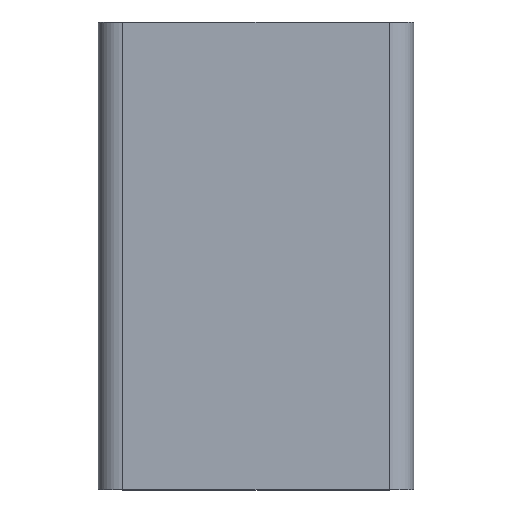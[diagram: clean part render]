
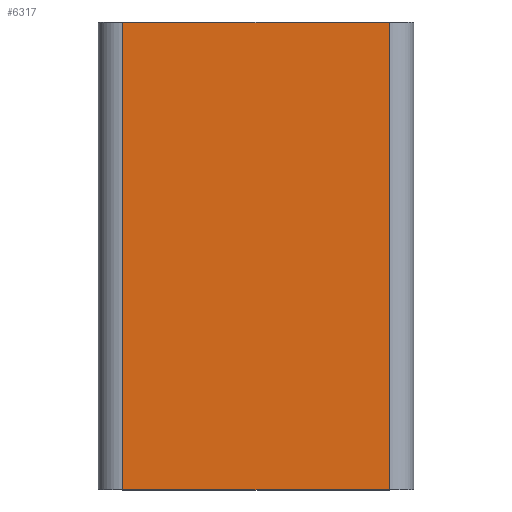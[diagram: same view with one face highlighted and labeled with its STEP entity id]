
A CAD part, top view. The second image highlights one B-rep face of the part: STEP entity #6317.
In plain terms, the highlighted planar face has unit normal (0, 0, 1).
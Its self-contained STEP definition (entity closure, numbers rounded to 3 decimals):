
#1974 = VECTOR ( 'NONE', #1979, 1000. ) ;
#1975 = CARTESIAN_POINT ( 'NONE',  ( -245., 860., 215. ) ) ;
#1979 = DIRECTION ( 'NONE',  ( 0., -1., 0. ) ) ;
#1993 = LINE ( 'NONE', #1975, #1974 ) ;
#3155 = DIRECTION ( 'NONE',  ( -1., 0., 0. ) ) ;
#3156 = VECTOR ( 'NONE', #3155, 1000. ) ;
#3157 = LINE ( 'NONE', #3162, #3156 ) ;
#3158 = AXIS2_PLACEMENT_3D ( 'NONE', #3210, #3209, #3208 ) ;
#3162 = CARTESIAN_POINT ( 'NONE',  ( -245., 859., 215. ) ) ;
#3163 = FACE_OUTER_BOUND ( 'NONE', #5766, .T. ) ;
#3203 = CARTESIAN_POINT ( 'NONE',  ( 245., 0., 215. ) ) ;
#3204 = DIRECTION ( 'NONE',  ( 1., 0., 0. ) ) ;
#3205 = VECTOR ( 'NONE', #3204, 1000. ) ;
#3206 = CARTESIAN_POINT ( 'NONE',  ( -245., 0., 215. ) ) ;
#3207 = LINE ( 'NONE', #3206, #3205 ) ;
#3208 = DIRECTION ( 'NONE',  ( -1., 0., 0. ) ) ;
#3209 = DIRECTION ( 'NONE',  ( 0., 0., -1. ) ) ;
#3210 = CARTESIAN_POINT ( 'NONE',  ( -245., 860., 215. ) ) ;
#3211 = CARTESIAN_POINT ( 'NONE',  ( 245., 859., 215. ) ) ;
#3213 = PLANE ( 'NONE',  #3158 ) ;
#3333 = CARTESIAN_POINT ( 'NONE',  ( 245., 860., 215. ) ) ;
#3379 = DIRECTION ( 'NONE',  ( 0., -1., 0. ) ) ;
#3380 = VECTOR ( 'NONE', #3379, 1000. ) ;
#3381 = LINE ( 'NONE', #3333, #3380 ) ;
#3565 = CARTESIAN_POINT ( 'NONE',  ( -245., 0., 215. ) ) ;
#3567 = CARTESIAN_POINT ( 'NONE',  ( -245., 859., 215. ) ) ;
#5738 = EDGE_CURVE ( 'NONE', #6375, #6368, #1993, .T. ) ;
#5766 = EDGE_LOOP ( 'NONE', ( #6322, #6324, #6366, #6353 ) ) ;
#6313 = EDGE_CURVE ( 'NONE', #6321, #6375, #3157, .T. ) ;
#6317 = ADVANCED_FACE ( 'NONE', ( #3163 ), #3213, .F. ) ;
#6319 = EDGE_CURVE ( 'NONE', #6368, #6323, #3207, .T. ) ;
#6321 = VERTEX_POINT ( 'NONE', #3211 ) ;
#6322 = ORIENTED_EDGE ( 'NONE', *, *, #6339, .F. ) ;
#6323 = VERTEX_POINT ( 'NONE', #3203 ) ;
#6324 = ORIENTED_EDGE ( 'NONE', *, *, #6313, .T. ) ;
#6339 = EDGE_CURVE ( 'NONE', #6321, #6323, #3381, .T. ) ;
#6353 = ORIENTED_EDGE ( 'NONE', *, *, #6319, .T. ) ;
#6366 = ORIENTED_EDGE ( 'NONE', *, *, #5738, .T. ) ;
#6368 = VERTEX_POINT ( 'NONE', #3565 ) ;
#6375 = VERTEX_POINT ( 'NONE', #3567 ) ;
